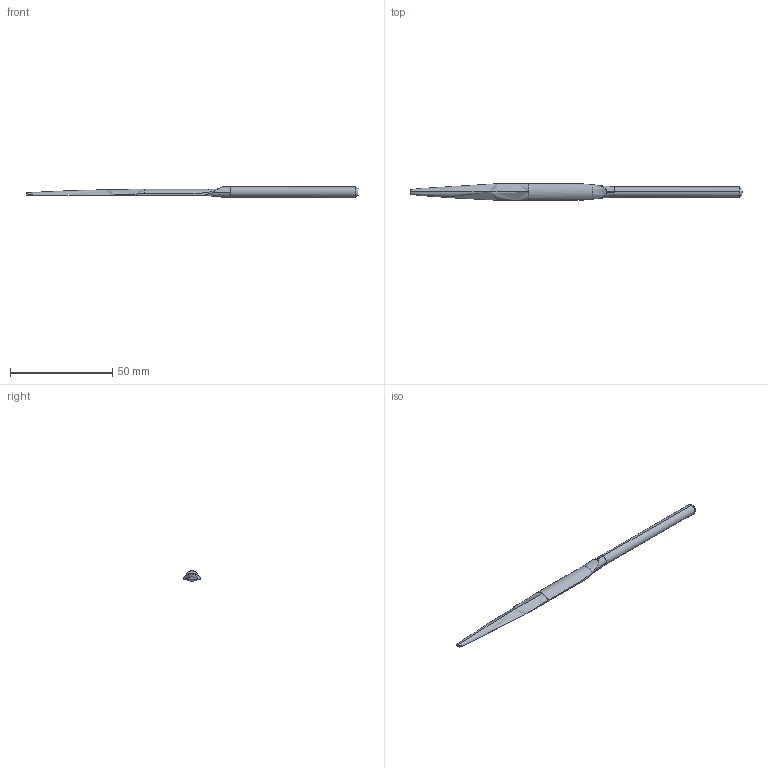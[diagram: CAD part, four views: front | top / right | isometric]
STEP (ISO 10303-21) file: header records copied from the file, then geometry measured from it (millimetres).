
FILE_DESCRIPTION (( 'STEP AP203' ), '1' );
FILE_NAME ('HA1550T_TSUBOSAN_チタンスーパーソー半丸.STEP', '2026-07-03T06:32:29', ( '' ), ( '' ), 'SwSTEP 2.0', 'SolidWorks 2016', '' );
FILE_SCHEMA (( 'CONFIG_CONTROL_DESIGN' ));
Length unit declared in the file: millimetre
Products named in the file (1): HA1550T_TSUBOSAN_チタンスーパーソー半丸
Bounding box: 162 x 8.2 x 5 mm (x, y, z)
Volume: 2622.1 mm3; surface area: 2604.2 mm2
Topology: 1 solids, 1 shells, 31 faces, 84 edges, 52 vertices
Faces by surface type: cylinder 11, bspline 9, plane 7, torus 2, cone 2
Entity records: 1711 total; most frequent: CARTESIAN_POINT 1019, ORIENTED_EDGE 158, DIRECTION 80, EDGE_CURVE 79, VERTEX_POINT 51, B_SPLINE_CURVE_WITH_KNOTS 50, FACE_OUTER_BOUND 30, EDGE_LOOP 30
